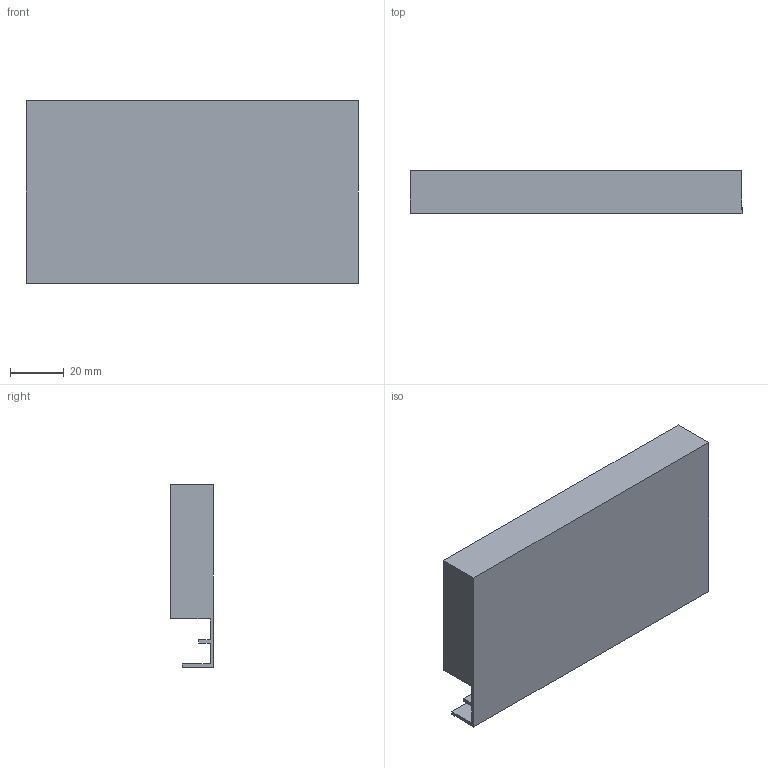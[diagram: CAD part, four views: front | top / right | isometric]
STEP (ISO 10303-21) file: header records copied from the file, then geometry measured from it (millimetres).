
FILE_DESCRIPTION (( 'STEP AP214' ), '1' );
FILE_NAME ('Innenschub-Blendenprofil_KAB250_S18.step', '2010-09-23T12:26:55', ( 'grass' ), ( '' ), 'SwSTEP 2.0', 'SolidWorks 2010', '' );
FILE_SCHEMA (( 'AUTOMOTIVE_DESIGN' ));
Length unit declared in the file: millimetre
Products named in the file (1): Innenschub-Blendenprofil_KAB250_S18
Bounding box: 123 x 15.9 x 67.6 mm (x, y, z)
Volume: 101947.8 mm3; surface area: 25825.6 mm2
Topology: 1 solids, 1 shells, 17 faces, 42 edges, 28 vertices
Faces by surface type: plane 15, cylinder 2
Entity records: 534 total; most frequent: CARTESIAN_POINT 88, ORIENTED_EDGE 84, DIRECTION 82, EDGE_CURVE 42, VECTOR 38, LINE 38, VERTEX_POINT 28, AXIS2_PLACEMENT_3D 22
